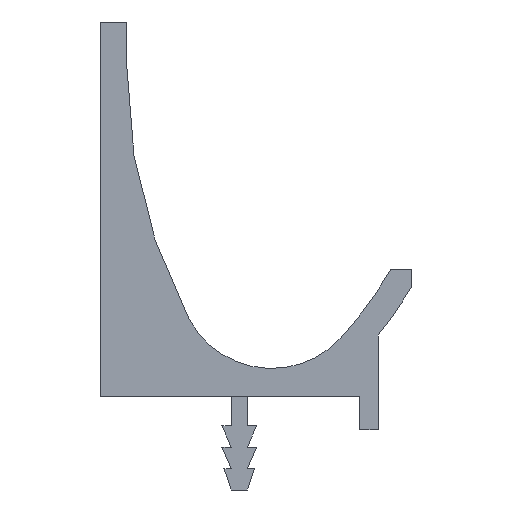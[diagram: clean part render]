
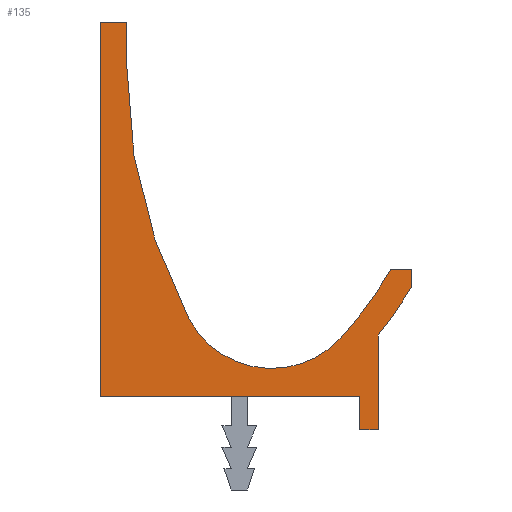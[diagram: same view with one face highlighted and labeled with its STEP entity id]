
A CAD part, left-side view. The second image highlights one B-rep face of the part: STEP entity #135.
In plain terms, the highlighted planar face has unit normal (-1, 0, 0).
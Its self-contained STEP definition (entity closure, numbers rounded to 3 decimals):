
#135 = ADVANCED_FACE( '', ( #259 ), #260, .F. );
#259 = FACE_OUTER_BOUND( '', #370, .T. );
#260 = PLANE( '', #371 );
#370 = EDGE_LOOP( '', ( #645, #646, #647, #648, #649, #650, #651, #652, #653, #654, #655, #656, #657 ) );
#371 = AXIS2_PLACEMENT_3D( '', #658, #659, #660 );
#645 = ORIENTED_EDGE( '', *, *, #800, .F. );
#646 = ORIENTED_EDGE( '', *, *, #778, .F. );
#647 = ORIENTED_EDGE( '', *, *, #788, .F. );
#648 = ORIENTED_EDGE( '', *, *, #687, .F. );
#649 = ORIENTED_EDGE( '', *, *, #791, .F. );
#650 = ORIENTED_EDGE( '', *, *, #729, .F. );
#651 = ORIENTED_EDGE( '', *, *, #739, .F. );
#652 = ORIENTED_EDGE( '', *, *, #715, .F. );
#653 = ORIENTED_EDGE( '', *, *, #798, .F. );
#654 = ORIENTED_EDGE( '', *, *, #784, .T. );
#655 = ORIENTED_EDGE( '', *, *, #771, .T. );
#656 = ORIENTED_EDGE( '', *, *, #697, .T. );
#657 = ORIENTED_EDGE( '', *, *, #711, .F. );
#658 = CARTESIAN_POINT( '', ( 0., -31.6, 24.502 ) );
#659 = DIRECTION( '', ( 1., 0., 0. ) );
#660 = DIRECTION( '', ( 0., 0., -1. ) );
#687 = EDGE_CURVE( '', #806, #807, #808, .T. );
#697 = EDGE_CURVE( '', #824, #825, #826, .T. );
#711 = EDGE_CURVE( '', #848, #825, #849, .T. );
#715 = EDGE_CURVE( '', #854, #855, #856, .T. );
#729 = EDGE_CURVE( '', #878, #879, #880, .T. );
#739 = EDGE_CURVE( '', #855, #878, #896, .T. );
#771 = EDGE_CURVE( '', #940, #824, #941, .T. );
#778 = EDGE_CURVE( '', #949, #950, #951, .T. );
#784 = EDGE_CURVE( '', #959, #940, #960, .T. );
#788 = EDGE_CURVE( '', #807, #949, #965, .T. );
#791 = EDGE_CURVE( '', #879, #806, #968, .T. );
#798 = EDGE_CURVE( '', #959, #854, #975, .T. );
#800 = EDGE_CURVE( '', #950, #848, #977, .T. );
#806 = VERTEX_POINT( '', #983 );
#807 = VERTEX_POINT( '', #984 );
#808 = LINE( '', #985, #986 );
#824 = VERTEX_POINT( '', #1009 );
#825 = VERTEX_POINT( '', #1010 );
#826 = CIRCLE( '', #1011, 40. );
#848 = VERTEX_POINT( '', #1042 );
#849 = LINE( '', #1043, #1044 );
#854 = VERTEX_POINT( '', #1051 );
#855 = VERTEX_POINT( '', #1052 );
#856 = LINE( '', #1053, #1054 );
#878 = VERTEX_POINT( '', #1086 );
#879 = VERTEX_POINT( '', #1087 );
#880 = LINE( '', #1088, #1089 );
#896 = CIRCLE( '', #1112, 32. );
#940 = VERTEX_POINT( '', #1180 );
#941 = CIRCLE( '', #1181, 7. );
#949 = VERTEX_POINT( '', #1191 );
#950 = VERTEX_POINT( '', #1192 );
#951 = LINE( '', #1193, #1194 );
#959 = VERTEX_POINT( '', #1205 );
#960 = CIRCLE( '', #1206, 30. );
#965 = LINE( '', #1212, #1213 );
#968 = LINE( '', #1217, #1218 );
#975 = LINE( '', #1228, #1229 );
#977 = LINE( '', #1231, #1232 );
#983 = CARTESIAN_POINT( '', ( 0., -9., -2.5 ) );
#984 = CARTESIAN_POINT( '', ( 0., -9., 0. ) );
#985 = CARTESIAN_POINT( '', ( 0., -9., -2.5 ) );
#986 = VECTOR( '', #1238, 1000. );
#1009 = CARTESIAN_POINT( '', ( 0., 3.77, 5.821 ) );
#1010 = CARTESIAN_POINT( '', ( 0., 8.4, 24.502 ) );
#1011 = AXIS2_PLACEMENT_3D( '', #1246, #1247, #1248 );
#1042 = CARTESIAN_POINT( '', ( 0., 8.4, 28. ) );
#1043 = CARTESIAN_POINT( '', ( 0., 8.4, 28. ) );
#1044 = VECTOR( '', #1261, 1000. );
#1051 = CARTESIAN_POINT( '', ( 0., -12.9, 9.5 ) );
#1052 = CARTESIAN_POINT( '', ( 0., -12.9, 8.224 ) );
#1053 = CARTESIAN_POINT( '', ( 0., -12.9, 9.5 ) );
#1054 = VECTOR( '', #1264, 1000. );
#1086 = CARTESIAN_POINT( '', ( 0., -10.4, 4.592 ) );
#1087 = CARTESIAN_POINT( '', ( 0., -10.4, -2.5 ) );
#1088 = CARTESIAN_POINT( '', ( 0., -10.4, 4.592 ) );
#1089 = VECTOR( '', #1275, 1000. );
#1112 = AXIS2_PLACEMENT_3D( '', #1283, #1284, #1285 );
#1180 = CARTESIAN_POINT( '', ( 0., -7.614, 4.397 ) );
#1181 = AXIS2_PLACEMENT_3D( '', #1313, #1314, #1315 );
#1191 = CARTESIAN_POINT( '', ( 0., 10.4, 0. ) );
#1192 = CARTESIAN_POINT( '', ( 0., 10.4, 28. ) );
#1193 = CARTESIAN_POINT( '', ( 0., 10.4, 0. ) );
#1194 = VECTOR( '', #1321, 1000. );
#1205 = CARTESIAN_POINT( '', ( 0., -11.329, 9.5 ) );
#1206 = AXIS2_PLACEMENT_3D( '', #1325, #1326, #1327 );
#1212 = CARTESIAN_POINT( '', ( 0., -9., 0. ) );
#1213 = VECTOR( '', #1332, 1000. );
#1217 = CARTESIAN_POINT( '', ( 0., -10.4, -2.5 ) );
#1218 = VECTOR( '', #1334, 1000. );
#1228 = CARTESIAN_POINT( '', ( 0., -11.329, 9.5 ) );
#1229 = VECTOR( '', #1338, 1000. );
#1231 = CARTESIAN_POINT( '', ( 0., 10.4, 28. ) );
#1232 = VECTOR( '', #1339, 1000. );
#1238 = DIRECTION( '', ( 0., 0., 1. ) );
#1246 = CARTESIAN_POINT( '', ( 0., -31.6, 24.502 ) );
#1247 = DIRECTION( '', ( 1., 0., 0. ) );
#1248 = DIRECTION( '', ( 0., 0., -1. ) );
#1261 = DIRECTION( '', ( 0., 0., -1. ) );
#1264 = DIRECTION( '', ( 0., 0., -1. ) );
#1275 = DIRECTION( '', ( 0., 0., -1. ) );
#1283 = CARTESIAN_POINT( '', ( 0., 14.647, 24.508 ) );
#1284 = DIRECTION( '', ( 1., 0., 0. ) );
#1285 = DIRECTION( '', ( 0., 0., -1. ) );
#1313 = CARTESIAN_POINT( '', ( 0., -2.42, 9.09 ) );
#1314 = DIRECTION( '', ( 1., 0., 0. ) );
#1315 = DIRECTION( '', ( 0., 0., -1. ) );
#1321 = DIRECTION( '', ( 0., 0., 1. ) );
#1325 = CARTESIAN_POINT( '', ( 0., 14.647, 24.508 ) );
#1326 = DIRECTION( '', ( 1., 0., 0. ) );
#1327 = DIRECTION( '', ( 0., 0., -1. ) );
#1332 = DIRECTION( '', ( 0., 1., 0. ) );
#1334 = DIRECTION( '', ( 0., 1., 0. ) );
#1338 = DIRECTION( '', ( 0., -1., 0. ) );
#1339 = DIRECTION( '', ( 0., -1., 0. ) );
